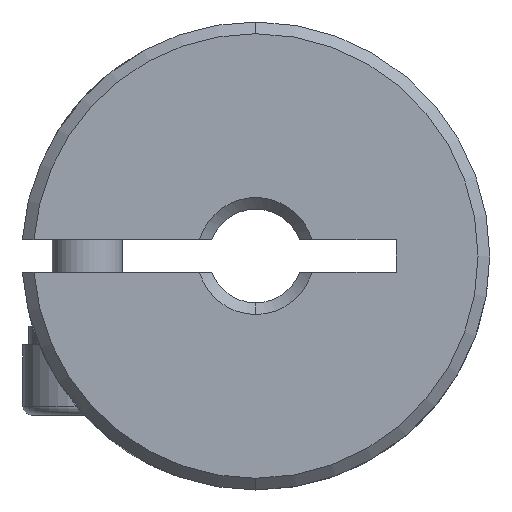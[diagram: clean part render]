
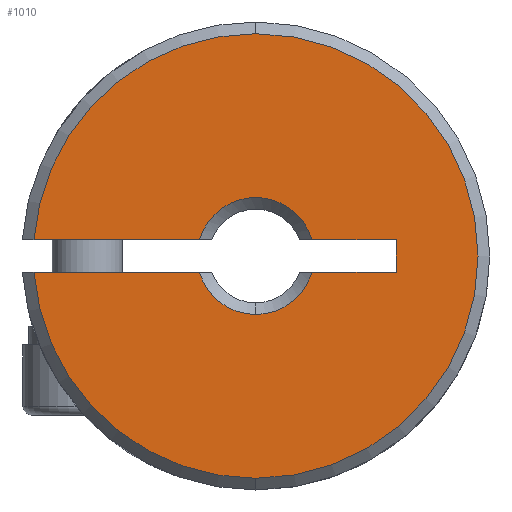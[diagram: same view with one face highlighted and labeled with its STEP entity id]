
A CAD part, front view. The second image highlights one B-rep face of the part: STEP entity #1010.
In plain terms, the highlighted planar face has unit normal (0, -1, 0).
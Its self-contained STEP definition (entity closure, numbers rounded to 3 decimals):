
#153 = ORIENTED_EDGE ( 'NONE', *, *, #2168, .T. ) ;
#156 = CARTESIAN_POINT ( 'NONE',  ( 0., 0.25, 9.5 ) ) ;
#167 = VECTOR ( 'NONE', #1385, 1000. ) ;
#176 = AXIS2_PLACEMENT_3D ( 'NONE', #3590, #1233, #1838 ) ;
#191 = AXIS2_PLACEMENT_3D ( 'NONE', #3521, #2627, #2654 ) ;
#243 = VERTEX_POINT ( 'NONE', #156 ) ;
#301 = ORIENTED_EDGE ( 'NONE', *, *, #3653, .T. ) ;
#307 = CARTESIAN_POINT ( 'NONE',  ( -9.474, 0.25, -0.7 ) ) ;
#358 = VECTOR ( 'NONE', #463, 1000. ) ;
#417 = EDGE_CURVE ( 'NONE', #1729, #1069, #506, .T. ) ;
#433 = CIRCLE ( 'NONE', #2950, 2.5 ) ;
#453 = CARTESIAN_POINT ( 'NONE',  ( 0., 0.25, 0. ) ) ;
#463 = DIRECTION ( 'NONE',  ( -1., 0., 0. ) ) ;
#506 = LINE ( 'NONE', #2829, #1882 ) ;
#524 = CARTESIAN_POINT ( 'NONE',  ( 6., 0.25, 0.7 ) ) ;
#529 = DIRECTION ( 'NONE',  ( 1., 0., 0. ) ) ;
#615 = PLANE ( 'NONE',  #2878 ) ;
#653 = AXIS2_PLACEMENT_3D ( 'NONE', #3626, #953, #1248 ) ;
#704 = ORIENTED_EDGE ( 'NONE', *, *, #3577, .T. ) ;
#756 = LINE ( 'NONE', #2511, #167 ) ;
#845 = VERTEX_POINT ( 'NONE', #2857 ) ;
#953 = DIRECTION ( 'NONE',  ( 0., 1., 0. ) ) ;
#1010 = ADVANCED_FACE ( 'NONE', ( #3427 ), #615, .F. ) ;
#1044 = DIRECTION ( 'NONE',  ( 0., -1., 0. ) ) ;
#1069 = VERTEX_POINT ( 'NONE', #2373 ) ;
#1163 = ORIENTED_EDGE ( 'NONE', *, *, #417, .F. ) ;
#1194 = ORIENTED_EDGE ( 'NONE', *, *, #3368, .F. ) ;
#1233 = DIRECTION ( 'NONE',  ( 0., 1., 0. ) ) ;
#1248 = DIRECTION ( 'NONE',  ( 0., 0., 1. ) ) ;
#1264 = AXIS2_PLACEMENT_3D ( 'NONE', #3694, #1368, #1341 ) ;
#1341 = DIRECTION ( 'NONE',  ( 0., 0., 1. ) ) ;
#1368 = DIRECTION ( 'NONE',  ( 0., -1., 0. ) ) ;
#1378 = DIRECTION ( 'NONE',  ( 0., 0., 1. ) ) ;
#1385 = DIRECTION ( 'NONE',  ( 1., 0., 0. ) ) ;
#1438 = EDGE_CURVE ( 'NONE', #2469, #3773, #2269, .T. ) ;
#1449 = CARTESIAN_POINT ( 'NONE',  ( 6., 0.25, -0.7 ) ) ;
#1479 = CARTESIAN_POINT ( 'NONE',  ( 6., 0.25, 0.7 ) ) ;
#1496 = CIRCLE ( 'NONE', #176, 2.5 ) ;
#1526 = CARTESIAN_POINT ( 'NONE',  ( 6., 0.25, 0.7 ) ) ;
#1618 = AXIS2_PLACEMENT_3D ( 'NONE', #453, #1044, #3288 ) ;
#1674 = CIRCLE ( 'NONE', #1264, 9.5 ) ;
#1723 = DIRECTION ( 'NONE',  ( 0., 0., 1. ) ) ;
#1729 = VERTEX_POINT ( 'NONE', #307 ) ;
#1767 = EDGE_CURVE ( 'NONE', #3342, #2351, #3234, .T. ) ;
#1782 = DIRECTION ( 'NONE',  ( -1., 0., 0. ) ) ;
#1838 = DIRECTION ( 'NONE',  ( 0., 0., 1. ) ) ;
#1861 = CIRCLE ( 'NONE', #653, 2.5 ) ;
#1875 = CARTESIAN_POINT ( 'NONE',  ( 2.4, 0.25, -0.7 ) ) ;
#1882 = VECTOR ( 'NONE', #529, 1000. ) ;
#1923 = EDGE_CURVE ( 'NONE', #3431, #2469, #2353, .T. ) ;
#2010 = DIRECTION ( 'NONE',  ( 0., 1., 0. ) ) ;
#2012 = ORIENTED_EDGE ( 'NONE', *, *, #1767, .F. ) ;
#2133 = CARTESIAN_POINT ( 'NONE',  ( -2.4, 0.25, 0.7 ) ) ;
#2159 = ORIENTED_EDGE ( 'NONE', *, *, #3225, .T. ) ;
#2168 = EDGE_CURVE ( 'NONE', #243, #2351, #1674, .T. ) ;
#2269 = LINE ( 'NONE', #3677, #358 ) ;
#2296 = ORIENTED_EDGE ( 'NONE', *, *, #1438, .F. ) ;
#2351 = VERTEX_POINT ( 'NONE', #3170 ) ;
#2353 = LINE ( 'NONE', #524, #3611 ) ;
#2373 = CARTESIAN_POINT ( 'NONE',  ( -2.4, 0.25, -0.7 ) ) ;
#2417 = EDGE_CURVE ( 'NONE', #1729, #2658, #3695, .T. ) ;
#2469 = VERTEX_POINT ( 'NONE', #1479 ) ;
#2494 = DIRECTION ( 'NONE',  ( 0., 1., 0. ) ) ;
#2511 = CARTESIAN_POINT ( 'NONE',  ( 6., 0.25, -0.7 ) ) ;
#2580 = DIRECTION ( 'NONE',  ( 0., 0., 1. ) ) ;
#2627 = DIRECTION ( 'NONE',  ( 0., -1., 0. ) ) ;
#2654 = DIRECTION ( 'NONE',  ( 0., 0., 1. ) ) ;
#2658 = VERTEX_POINT ( 'NONE', #3603 ) ;
#2659 = VERTEX_POINT ( 'NONE', #1875 ) ;
#2829 = CARTESIAN_POINT ( 'NONE',  ( 6., 0.25, -0.7 ) ) ;
#2857 = CARTESIAN_POINT ( 'NONE',  ( 0., 0.25, -2.5 ) ) ;
#2874 = CARTESIAN_POINT ( 'NONE',  ( -50., 0.25, 12. ) ) ;
#2878 = AXIS2_PLACEMENT_3D ( 'NONE', #2874, #2010, #1723 ) ;
#2922 = CARTESIAN_POINT ( 'NONE',  ( 2.4, 0.25, 0.7 ) ) ;
#2950 = AXIS2_PLACEMENT_3D ( 'NONE', #3444, #2494, #1378 ) ;
#2953 = VECTOR ( 'NONE', #1782, 1000. ) ;
#2990 = CIRCLE ( 'NONE', #1618, 9.5 ) ;
#3081 = EDGE_CURVE ( 'NONE', #2659, #845, #1496, .T. ) ;
#3170 = CARTESIAN_POINT ( 'NONE',  ( -9.474, 0.25, 0.7 ) ) ;
#3225 = EDGE_CURVE ( 'NONE', #3342, #3773, #433, .T. ) ;
#3234 = LINE ( 'NONE', #1526, #2953 ) ;
#3288 = DIRECTION ( 'NONE',  ( 0., 0., 1. ) ) ;
#3342 = VERTEX_POINT ( 'NONE', #2133 ) ;
#3354 = EDGE_LOOP ( 'NONE', ( #1163, #3437, #301, #153, #2012, #2159, #2296, #3690, #1194, #3610, #704 ) ) ;
#3368 = EDGE_CURVE ( 'NONE', #2659, #3431, #756, .T. ) ;
#3427 = FACE_OUTER_BOUND ( 'NONE', #3354, .T. ) ;
#3431 = VERTEX_POINT ( 'NONE', #1449 ) ;
#3437 = ORIENTED_EDGE ( 'NONE', *, *, #2417, .T. ) ;
#3444 = CARTESIAN_POINT ( 'NONE',  ( 0., 0.25, 0. ) ) ;
#3521 = CARTESIAN_POINT ( 'NONE',  ( 0., 0.25, 0. ) ) ;
#3577 = EDGE_CURVE ( 'NONE', #845, #1069, #1861, .T. ) ;
#3590 = CARTESIAN_POINT ( 'NONE',  ( 0., 0.25, 0. ) ) ;
#3603 = CARTESIAN_POINT ( 'NONE',  ( 0., 0.25, -9.5 ) ) ;
#3610 = ORIENTED_EDGE ( 'NONE', *, *, #3081, .T. ) ;
#3611 = VECTOR ( 'NONE', #2580, 1000. ) ;
#3626 = CARTESIAN_POINT ( 'NONE',  ( 0., 0.25, 0. ) ) ;
#3653 = EDGE_CURVE ( 'NONE', #2658, #243, #2990, .T. ) ;
#3677 = CARTESIAN_POINT ( 'NONE',  ( 6., 0.25, 0.7 ) ) ;
#3690 = ORIENTED_EDGE ( 'NONE', *, *, #1923, .F. ) ;
#3694 = CARTESIAN_POINT ( 'NONE',  ( 0., 0.25, 0. ) ) ;
#3695 = CIRCLE ( 'NONE', #191, 9.5 ) ;
#3773 = VERTEX_POINT ( 'NONE', #2922 ) ;
